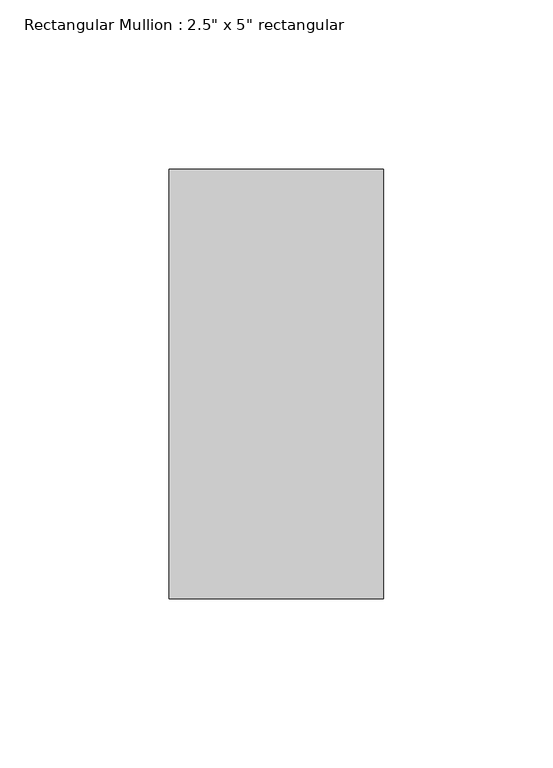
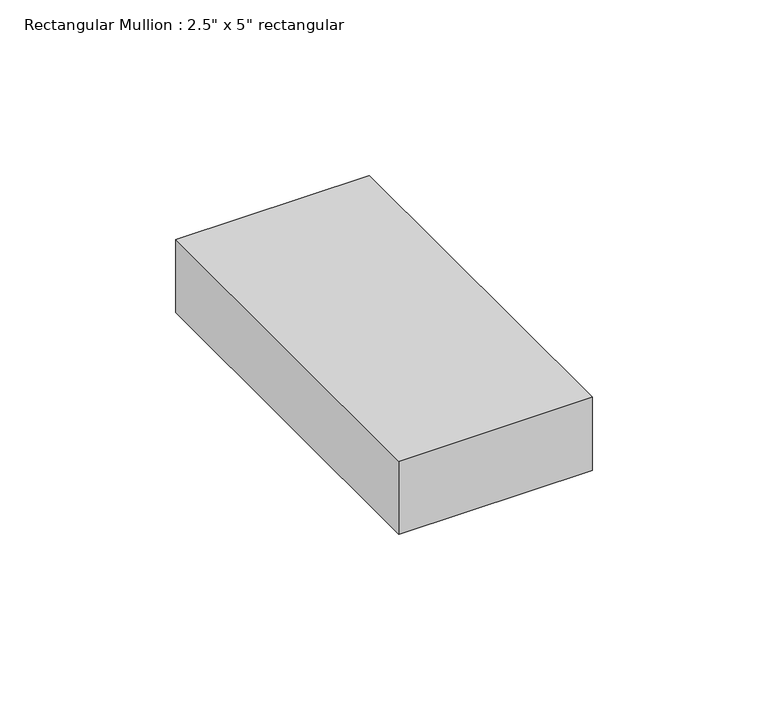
"""IFC4 building model written with IfcOpenShell, lengths in millimetres: member geometry."""

from ifc_helpers import new_model, si_unit, frame, origin, place, context, project, spatial, polyline, outline, extrude, source, transform, mapped, element, save


def member_0f16ceef(model_context):
    return source(origin(), model_context, "Body", "SweptSolid", [
        extrude(outline(polyline([(31.75, 63.5), (31.75, -63.5), (-31.75, -63.5), (-31.75, 63.5), (31.75, 63.5)])), frame((0.0, 0.0, -25.4), z_axis=(0.0, 0.0, 1.0), x_axis=(1.0, 0.0, 0.0)), (0.0, 0.0, 1.0), 25.4),
    ])


if __name__ == "__main__":
    model = new_model("IFC4")
    model_context = context("Model", 3, world=origin())
    ifc_project = project(units=[si_unit("LENGTHUNIT", "METRE", prefix="MILLI")], contexts=[model_context])
    site = spatial("IfcSite", under=ifc_project)
    building = spatial("IfcBuilding", under=site)
    placement = place(None, origin())
    member_shape = member_0f16ceef(model_context)
    element("IfcMember", 1, ObjectType="Rectangular Mullion : 2.5\" x 5\" rectangular", at=placement, inside=building, context=model_context, shape_type="MappedRepresentation", body=[
        mapped(member_shape, transform((0.0, 0.0, 0.0), x_axis=(1.0, 0.0, 0.0), y_axis=(0.0, 1.0, 0.0), z_axis=(0.0, 0.0, 1.0))),
    ])
    save(model, "model.ifc")
